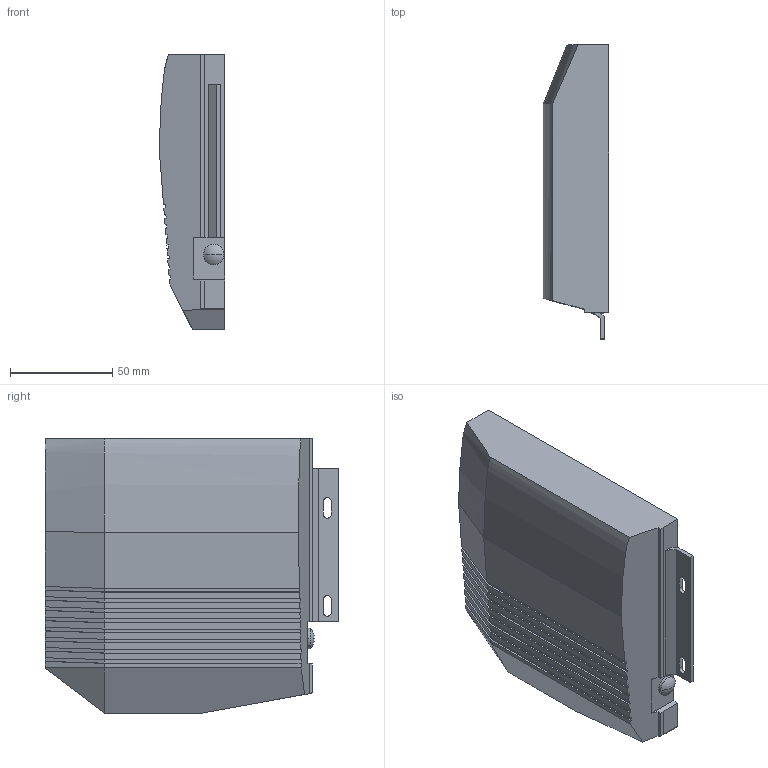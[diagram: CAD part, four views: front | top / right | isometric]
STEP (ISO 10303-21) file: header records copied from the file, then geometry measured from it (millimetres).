
FILE_DESCRIPTION (( 'STEP AP203' ), '1' );
FILE_NAME ('Kinvaro_T-65_rechts_D2672518325~0.step', '2012-05-04T06:47:29', ( 'admin' ), ( 'Hewlett-Packard Company' ), 'SwSTEP 2.0', 'SolidWorks 2011', '' );
FILE_SCHEMA (( 'CONFIG_CONTROL_DESIGN' ));
Length unit declared in the file: millimetre
Products named in the file (1): Kinvaro_T-65_rechts_D2672518325~0
Bounding box: 32.21 x 144.04 x 134.7 mm (x, y, z)
Volume: 463531.2 mm3; surface area: 51320.3 mm2
Topology: 1 solids, 1 shells, 109 faces, 299 edges, 197 vertices
Faces by surface type: plane 87, cylinder 18, sphere 2, bspline 2
Entity records: 3715 total; most frequent: CARTESIAN_POINT 851, ORIENTED_EDGE 598, DIRECTION 541, EDGE_CURVE 299, VECTOR 255, LINE 255, VERTEX_POINT 197, AXIS2_PLACEMENT_3D 143
